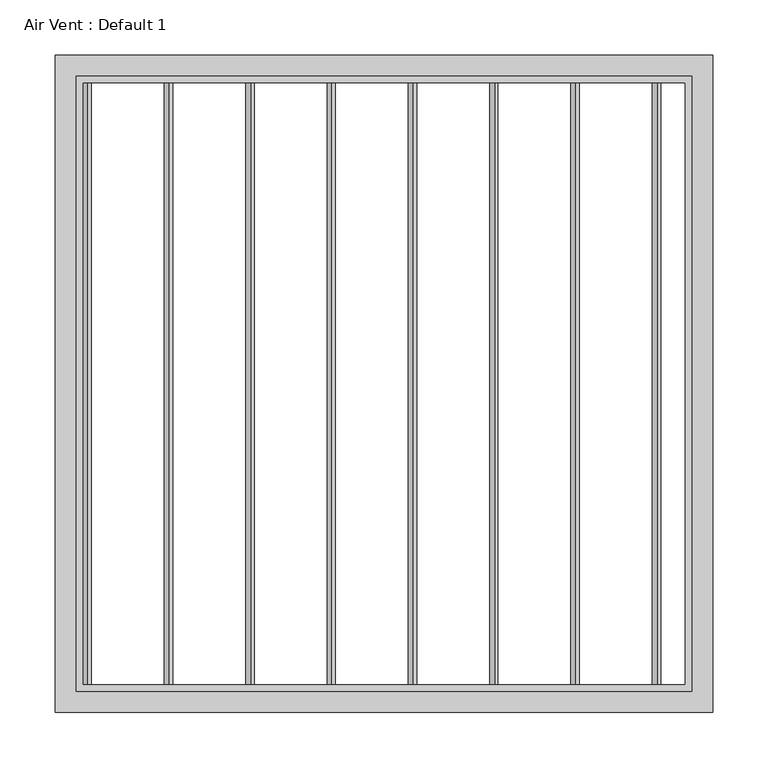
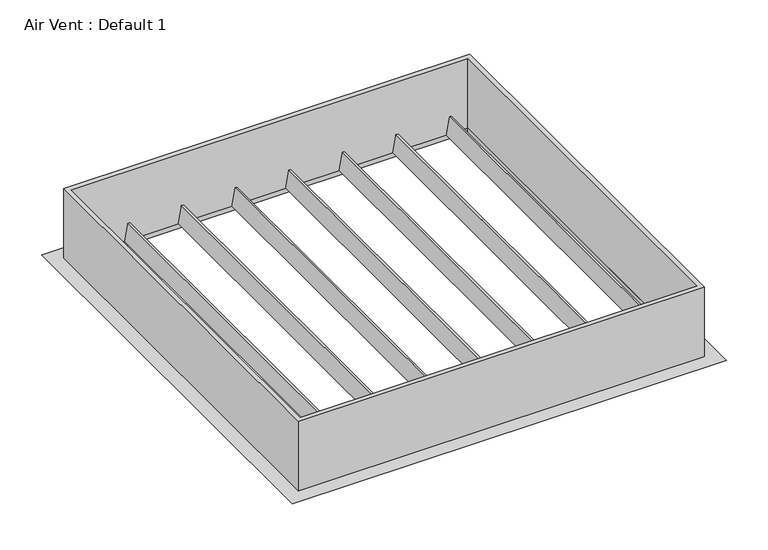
"""IFC4 building model written with IfcOpenShell, lengths in millimetres: proxy geometry, Air Vent : Default 1."""

from ifc_helpers import new_model, si_unit, frame, origin, place, context, project, spatial, polyline, outline, extrude, faceted_brep, source, transform, mapped, element, save


def air_vent_default_1_d5ec2509(model_context):
    return source(origin(), model_context, "Body", "SolidModel", [
        extrude(outline(polyline([(0.0, -3.175), (0.0, 0.0), (546.1, 0.0), (546.1, -3.175), (0.0, -3.175)])), frame((-199.2632292, -273.05, 2438.951333), z_axis=(0.1736481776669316, 0.0, 0.9848077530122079), x_axis=(0.0, 1.0, 0.0)), (0.0, 0.0, 1.0), 25.4),
        extrude(outline(polyline([(0.0, -3.175), (0.0, 0.0), (546.1, 0.0), (546.1, -3.175), (0.0, -3.175)])), frame((-125.4764584, -273.05, 2438.951333), z_axis=(0.1736481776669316, 0.0, 0.9848077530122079), x_axis=(0.0, 1.0, 0.0)), (0.0, 0.0, 1.0), 25.4),
        extrude(outline(polyline([(0.0, -3.1750001), (0.0, 0.0), (546.1, 0.0), (546.1, -3.1750001), (0.0, -3.1750001)])), frame((-51.6896876, -273.05, 2438.951333), z_axis=(0.1736481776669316, 0.0, 0.9848077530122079), x_axis=(0.0, 1.0, 0.0)), (0.0, 0.0, 1.0), 25.4),
        extrude(outline(polyline([(0.0, -3.175), (0.0, 0.0), (546.1, 0.0), (546.1, -3.175), (0.0, -3.175)])), frame((22.0970833, -273.05, 2438.951333), z_axis=(0.1736481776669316, 0.0, 0.9848077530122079), x_axis=(0.0, 1.0, 0.0)), (0.0, 0.0, 1.0), 25.4),
        extrude(outline(polyline([(0.0, -3.175), (0.0, 0.0), (546.1, 0.0), (546.1, -3.175), (0.0, -3.175)])), frame((95.8838541, -273.05, 2438.951333), z_axis=(0.1736481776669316, 0.0, 0.9848077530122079), x_axis=(0.0, 1.0, 0.0)), (0.0, 0.0, 1.0), 25.4),
        extrude(outline(polyline([(0.0, -3.175), (0.0, 0.0), (546.1, 0.0), (546.1, -3.175), (0.0, -3.175)])), frame((169.6706249, -273.05, 2438.951333), z_axis=(0.1736481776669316, 0.0, 0.9848077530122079), x_axis=(0.0, 1.0, 0.0)), (0.0, 0.0, 1.0), 25.4),
        extrude(outline(polyline([(0.0, -3.175), (0.0, 0.0), (546.1, 0.0), (546.1, -3.175), (0.0, -3.175)])), frame((243.4573957, -273.05, 2438.951333), z_axis=(0.1736481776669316, 0.0, 0.9848077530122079), x_axis=(0.0, 1.0, 0.0)), (0.0, 0.0, 1.0), 25.4),
        extrude(outline(polyline([(0.0, -3.175), (0.0, 0.0), (546.1, 0.0), (546.1, -3.175), (0.0, -3.175)])), frame((-273.05, -273.05, 2438.951333), z_axis=(0.1736481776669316, 0.0, 0.9848077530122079), x_axis=(0.0, 1.0, 0.0)), (0.0, 0.0, 1.0), 25.4),
        faceted_brep([(273.05, 273.05, 2438.4), (273.05, 273.05, 2432.05), (273.05, -273.05, 2432.05), (273.05, -273.05, 2438.4), (-273.05, -273.05, 2432.05), (-273.05, -273.05, 2438.4), (-273.05, 273.05, 2432.05), (-273.05, 273.05, 2438.4), (285.75, -285.75, 2432.05), (-285.75, -285.75, 2432.05), (-285.75, 285.75, 2432.05), (285.75, 285.75, 2432.05), (298.45, 298.45, 2438.4), (-298.45, 298.45, 2438.4), (-298.45, -298.45, 2438.4), (298.45, -298.45, 2438.4)], [[[0, 1, 2, 3]], [[3, 2, 4, 5]], [[5, 4, 6, 7]], [[8, 9, 10, 11], [1, 6, 4, 2]], [[12, 13, 14, 15], [3, 5, 7, 0]], [[7, 6, 1, 0]], [[11, 12, 15, 8]], [[8, 15, 14, 9]], [[9, 14, 13, 10]], [[10, 13, 12, 11]]]),
        extrude(outline(polyline([(279.4, 279.4), (279.4, -279.4), (-279.4, -279.4), (-279.4, 279.4), (279.4, 279.4)]), holes=[polyline([(273.05, 273.05), (-273.05, 273.05), (-273.05, -273.05), (273.05, -273.05), (273.05, 273.05)])]), frame((0.0, 0.0, 2438.4), z_axis=(0.0, 0.0, 1.0), x_axis=(1.0, 0.0, 0.0)), (0.0, 0.0, 1.0), 101.6),
    ])


if __name__ == "__main__":
    model = new_model("IFC4")
    model_context = context("Model", 3, world=origin())
    ifc_project = project(units=[si_unit("LENGTHUNIT", "METRE", prefix="MILLI")], contexts=[model_context])
    site = spatial("IfcSite", under=ifc_project)
    building = spatial("IfcBuilding", under=site)
    placement = place(None, origin())
    air_vent_default_1_shape = air_vent_default_1_d5ec2509(model_context)
    element("IfcBuildingElementProxy", 1, Name="Air Vent : Default 1", ObjectType="Air Vent : Default 1", at=placement, inside=building, context=model_context, shape_type="MappedRepresentation", body=[
        mapped(air_vent_default_1_shape, transform((0.0, 0.0, 0.0), x_axis=(1.0, 0.0, 0.0), y_axis=(0.0, 1.0, 0.0), z_axis=(0.0, 0.0, 1.0))),
    ])
    save(model, "model.ifc")
